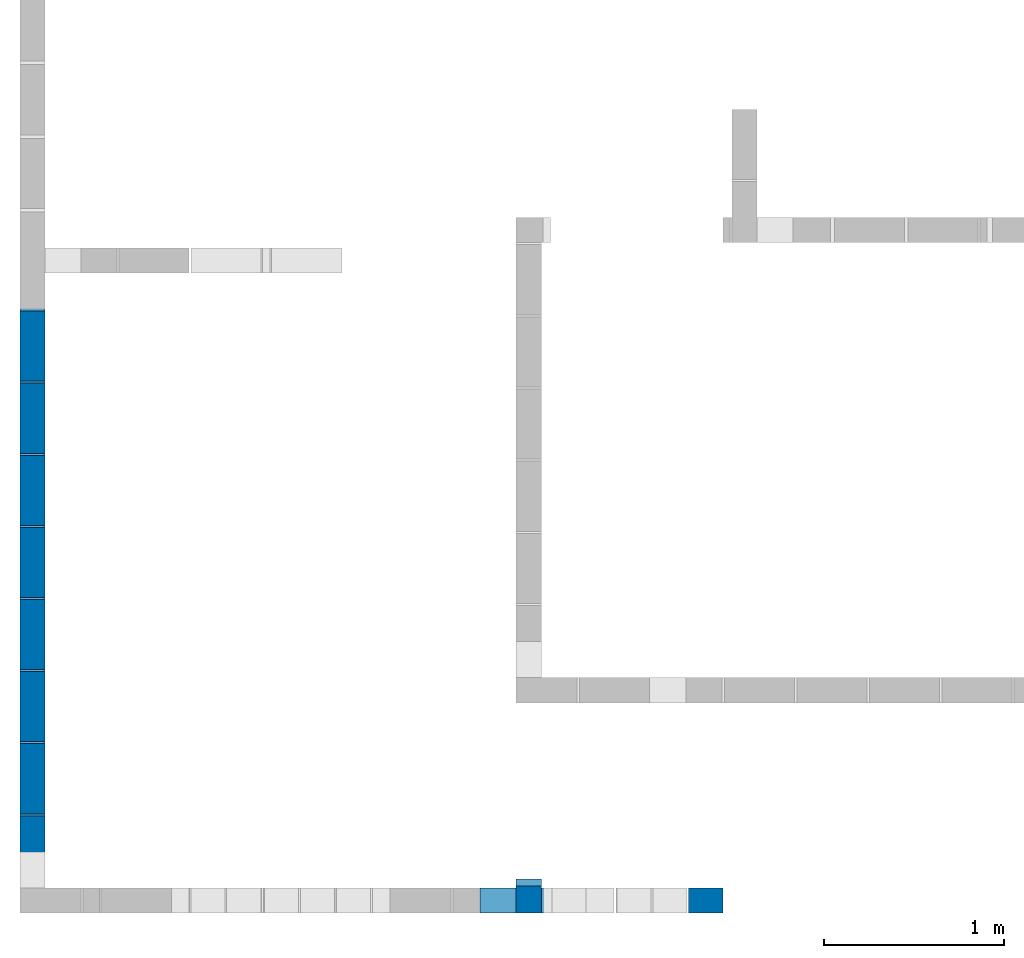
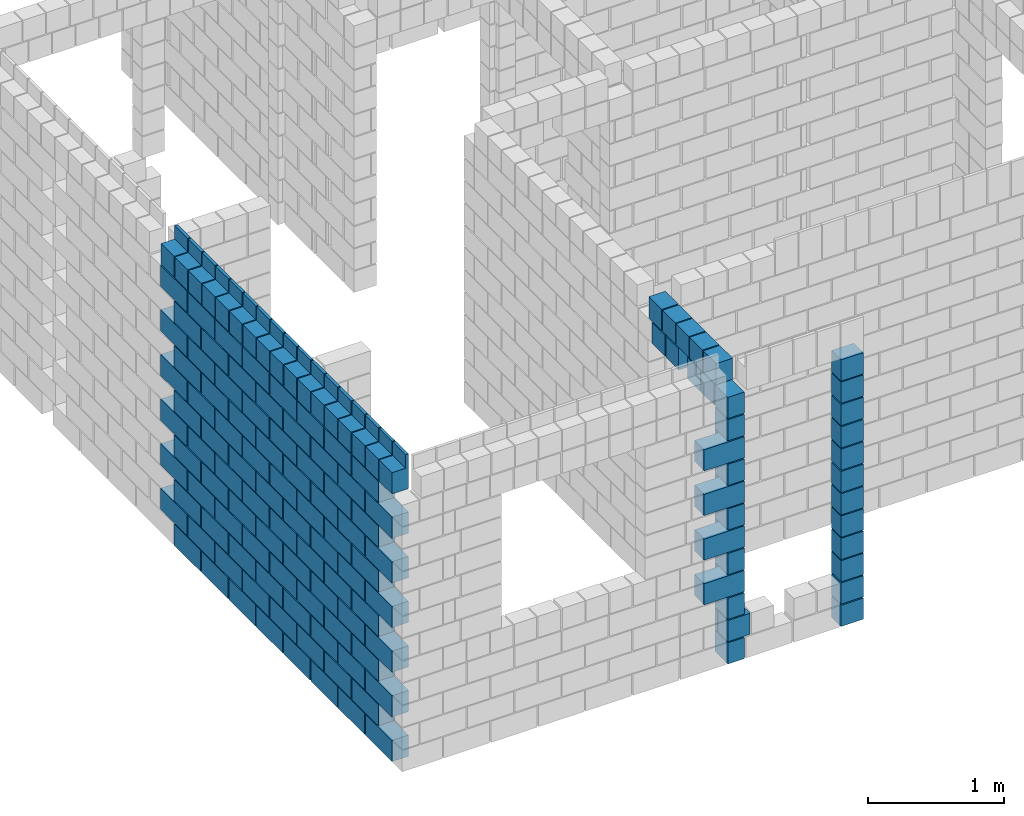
# One storey, part 2 of 12: 4 walls.
"""IFC4 building model written with IfcOpenShell, lengths in centimetres."""

from ifc_helpers import new_model, si_unit, derived_unit, frame, origin, origin_with_axes, origin_2d_with_axis, place, context, project, spatial, rectangle, extrude, element, save


model = new_model("IFC4")

# Units and contexts
model_context = context("Model", 3, precision=1e-05, world=origin_with_axes(), identifier="Body")
ifc_project = project(units=[si_unit("LENGTHUNIT", "METRE", prefix="CENTI"), si_unit("VOLUMEUNIT", "CUBIC_METRE"), si_unit("AREAUNIT", "SQUARE_METRE"), si_unit("POWERUNIT", "WATT"), si_unit("LUMINOUSFLUXUNIT", "LUMEN"), si_unit("ELECTRICCURRENTUNIT", "AMPERE"), si_unit("PRESSUREUNIT", "PASCAL", prefix="KILO"), si_unit("MASSUNIT", "GRAM", prefix="KILO"), si_unit("PLANEANGLEUNIT", "RADIAN"), derived_unit("VOLUMETRICFLOWRATEUNIT", [(si_unit("LENGTHUNIT", "METRE"), 3), (si_unit("TIMEUNIT", "SECOND"), -1)])], contexts=[model_context])

# Site, building, storey
site_placement = place(None, origin_with_axes())
site = spatial("IfcSite", under=ifc_project, at=site_placement)
building_placement = place(site_placement, origin())
building = spatial("IfcBuilding", under=site, at=building_placement)
storey_placement = place(building_placement, origin_with_axes())
storey = spatial("IfcBuildingStorey", under=building, at=storey_placement, Name="PISO", CompositionType="ELEMENT", Elevation=0.0)

# Walls
wall_1_placement = place(storey_placement, frame((276.5, 10.5, 239.0), z_axis=(0.0, 0.0, 1.0), x_axis=(1.0, 0.0, 0.0)))
element("IfcWall", 1, at=wall_1_placement, inside=storey, context=model_context, shape_type="SolidModel", body=[
    extrude(rectangle(XDim=19.0, YDim=14.0, at=origin_2d_with_axis()), frame((7.5, 0.0, -239.0), z_axis=(0.0, 0.0, 1.0), x_axis=(0.0, 1.0, 0.0)), (0.0, 0.0, 1.0), 19.0),
    extrude(rectangle(XDim=19.0, YDim=14.0, at=origin_2d_with_axis()), frame((10.0, -2.5, -219.0), z_axis=(0.0, 0.0, 1.0), x_axis=(1.0, 0.0, 0.0)), (0.0, 0.0, 1.0), 19.0),
    extrude(rectangle(XDim=19.0, YDim=14.0, at=origin_2d_with_axis()), frame((7.5, 0.0, -199.0), z_axis=(0.0, 0.0, 1.0), x_axis=(0.0, 1.0, 0.0)), (0.0, 0.0, 1.0), 19.0),
    extrude(rectangle(XDim=34.0, YDim=14.0, at=origin_2d_with_axis()), frame((-2.5, -2.5, -179.0), z_axis=(0.0, 0.0, 1.0), x_axis=(-1.0, 0.0, 0.0)), (0.0, 0.0, 1.0), 19.0),
    extrude(rectangle(XDim=19.0, YDim=14.0, at=origin_2d_with_axis()), frame((7.5, 0.0, -159.0), z_axis=(0.0, 0.0, 1.0), x_axis=(0.0, 1.0, 0.0)), (0.0, 0.0, 1.0), 19.0),
    extrude(rectangle(XDim=34.0, YDim=14.0, at=origin_2d_with_axis()), frame((-2.5, -2.5, -139.0), z_axis=(0.0, 0.0, 1.0), x_axis=(-1.0, 0.0, 0.0)), (0.0, 0.0, 1.0), 19.0),
    extrude(rectangle(XDim=19.0, YDim=14.0, at=origin_2d_with_axis()), frame((7.5, 0.0, -119.0), z_axis=(0.0, 0.0, 1.0), x_axis=(0.0, 1.0, 0.0)), (0.0, 0.0, 1.0), 19.0),
    extrude(rectangle(XDim=34.0, YDim=14.0, at=origin_2d_with_axis()), frame((-2.5, -2.5, -99.0), z_axis=(0.0, 0.0, 1.0), x_axis=(-1.0, 0.0, 0.0)), (0.0, 0.0, 1.0), 19.0),
    extrude(rectangle(XDim=19.0, YDim=14.0, at=origin_2d_with_axis()), frame((7.5, 0.0, -79.0), z_axis=(0.0, 0.0, 1.0), x_axis=(0.0, 1.0, 0.0)), (0.0, 0.0, 1.0), 19.0),
    extrude(rectangle(XDim=34.0, YDim=14.0, at=origin_2d_with_axis()), frame((-2.5, -2.5, -59.0), z_axis=(0.0, 0.0, 1.0), x_axis=(-1.0, 0.0, 0.0)), (0.0, 0.0, 1.0), 19.0),
    extrude(rectangle(XDim=19.0, YDim=14.0, at=origin_2d_with_axis()), frame((7.5, 0.0, -39.0), z_axis=(0.0, 0.0, 1.0), x_axis=(0.0, 1.0, 0.0)), (0.0, 0.0, 1.0), 19.0),
    extrude(rectangle(XDim=19.0, YDim=14.0, at=origin_2d_with_axis()), frame((7.5, 0.0, -19.0), z_axis=(0.0, 0.0, 1.0), x_axis=(0.0, 1.0, 0.0)), (0.0, 0.0, 1.0), 19.0),
])
wall_2_placement = place(storey_placement, frame((382.51, 8.0, 239.0), z_axis=(0.0, 0.0, 1.0), x_axis=(1.0, 0.0, 0.0)))
element("IfcWall", 2, at=wall_2_placement, inside=storey, context=model_context, shape_type="SolidModel", body=[
    extrude(rectangle(XDim=19.0, YDim=14.0, at=origin_2d_with_axis()), frame((0.0, 0.0, -239.0), z_axis=(0.0, 0.0, 1.0), x_axis=(-1.0, 0.0, 0.0)), (0.0, 0.0, 1.0), 19.0),
    extrude(rectangle(XDim=19.0, YDim=14.0, at=origin_2d_with_axis()), frame((0.0, 0.0, -219.0), z_axis=(0.0, 0.0, 1.0), x_axis=(-1.0, 0.0, 0.0)), (0.0, 0.0, 1.0), 19.0),
    extrude(rectangle(XDim=19.0, YDim=14.0, at=origin_2d_with_axis()), frame((0.0, 0.0, -199.0), z_axis=(0.0, 0.0, 1.0), x_axis=(-1.0, 0.0, 0.0)), (0.0, 0.0, 1.0), 19.0),
    extrude(rectangle(XDim=19.0, YDim=14.0, at=origin_2d_with_axis()), frame((0.0, 0.0, -179.0), z_axis=(0.0, 0.0, 1.0), x_axis=(-1.0, 0.0, 0.0)), (0.0, 0.0, 1.0), 19.0),
    extrude(rectangle(XDim=19.0, YDim=14.0, at=origin_2d_with_axis()), frame((0.0, 0.0, -159.0), z_axis=(0.0, 0.0, 1.0), x_axis=(-1.0, 0.0, 0.0)), (0.0, 0.0, 1.0), 19.0),
    extrude(rectangle(XDim=19.0, YDim=14.0, at=origin_2d_with_axis()), frame((0.0, 0.0, -139.0), z_axis=(0.0, 0.0, 1.0), x_axis=(-1.0, 0.0, 0.0)), (0.0, 0.0, 1.0), 19.0),
    extrude(rectangle(XDim=19.0, YDim=14.0, at=origin_2d_with_axis()), frame((0.0, 0.0, -119.0), z_axis=(0.0, 0.0, 1.0), x_axis=(-1.0, 0.0, 0.0)), (0.0, 0.0, 1.0), 19.0),
    extrude(rectangle(XDim=19.0, YDim=14.0, at=origin_2d_with_axis()), frame((0.0, 0.0, -99.0), z_axis=(0.0, 0.0, 1.0), x_axis=(-1.0, 0.0, 0.0)), (0.0, 0.0, 1.0), 19.0),
    extrude(rectangle(XDim=19.0, YDim=14.0, at=origin_2d_with_axis()), frame((0.0, 0.0, -79.0), z_axis=(0.0, 0.0, 1.0), x_axis=(-1.0, 0.0, 0.0)), (0.0, 0.0, 1.0), 19.0),
    extrude(rectangle(XDim=19.0, YDim=14.0, at=origin_2d_with_axis()), frame((0.0, 0.0, -59.0), z_axis=(0.0, 0.0, 1.0), x_axis=(-1.0, 0.0, 0.0)), (0.0, 0.0, 1.0), 19.0),
    extrude(rectangle(XDim=19.0, YDim=14.0, at=origin_2d_with_axis()), frame((0.0, 0.0, -39.0), z_axis=(0.0, 0.0, 1.0), x_axis=(-1.0, 0.0, 0.0)), (0.0, 0.0, 1.0), 19.0),
    extrude(rectangle(XDim=19.0, YDim=14.0, at=origin_2d_with_axis()), frame((0.0, 0.0, -19.0), z_axis=(0.0, 0.0, 1.0), x_axis=(-1.0, 0.0, 0.0)), (0.0, 0.0, 1.0), 19.0),
])
wall_3_placement = place(storey_placement, frame((8.0, 185.9488888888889, 271.0), z_axis=(0.0, 0.0, 1.0), x_axis=(1.0, 0.0, 0.0)))
element("IfcWall", 3, at=wall_3_placement, inside=storey, Name="PAR-PISO-11", context=model_context, shape_type="SolidModel", body=[
    extrude(rectangle(XDim=39.0, YDim=14.0, at=origin_2d_with_axis()), frame((0.0, -150.33666666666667, -271.0), z_axis=(0.0, 0.0, 1.0), x_axis=(0.0, 1.0, 0.0)), (0.0, 0.0, 1.0), 19.0),
    extrude(rectangle(XDim=39.0, YDim=14.0, at=origin_2d_with_axis()), frame((0.0, -110.22444444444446, -271.0), z_axis=(0.0, 0.0, 1.0), x_axis=(0.0, 1.0, 0.0)), (0.0, 0.0, 1.0), 19.0),
    extrude(rectangle(XDim=39.0, YDim=14.0, at=origin_2d_with_axis()), frame((0.0, -70.11222222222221, -271.0), z_axis=(0.0, 0.0, 1.0), x_axis=(0.0, 1.0, 0.0)), (0.0, 0.0, 1.0), 19.0),
    extrude(rectangle(XDim=39.0, YDim=14.0, at=origin_2d_with_axis()), frame((0.0, -30.0, -271.0), z_axis=(0.0, 0.0, 1.0), x_axis=(0.0, 1.0, 0.0)), (0.0, 0.0, 1.0), 19.0),
    extrude(rectangle(XDim=39.0, YDim=14.0, at=origin_2d_with_axis()), frame((0.0, 10.112222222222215, -271.0), z_axis=(0.0, 0.0, 1.0), x_axis=(0.0, 1.0, 0.0)), (0.0, 0.0, 1.0), 19.0),
    extrude(rectangle(XDim=39.0, YDim=14.0, at=origin_2d_with_axis()), frame((0.0, 50.22444444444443, -271.0), z_axis=(0.0, 0.0, 1.0), x_axis=(0.0, 1.0, 0.0)), (0.0, 0.0, 1.0), 19.0),
    extrude(rectangle(XDim=39.0, YDim=14.0, at=origin_2d_with_axis()), frame((0.0, 90.33666666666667, -271.0), z_axis=(0.0, 0.0, 1.0), x_axis=(0.0, 1.0, 0.0)), (0.0, 0.0, 1.0), 19.0),
    extrude(rectangle(XDim=39.0, YDim=14.0, at=origin_2d_with_axis()), frame((0.0, 130.4488888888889, -271.0), z_axis=(0.0, 0.0, 1.0), x_axis=(0.0, 1.0, 0.0)), (0.0, 0.0, 1.0), 19.0),
    extrude(rectangle(XDim=39.0, YDim=14.0, at=origin_2d_with_axis()), frame((0.0, -130.33666666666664, -251.0), z_axis=(0.0, 0.0, 1.0), x_axis=(0.0, 1.0, 0.0)), (0.0, 0.0, 1.0), 19.0),
    extrude(rectangle(XDim=39.0, YDim=14.0, at=origin_2d_with_axis()), frame((0.0, -90.22444444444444, -251.0), z_axis=(0.0, 0.0, 1.0), x_axis=(0.0, 1.0, 0.0)), (0.0, 0.0, 1.0), 19.0),
    extrude(rectangle(XDim=39.0, YDim=14.0, at=origin_2d_with_axis()), frame((0.0, -50.11222222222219, -251.0), z_axis=(0.0, 0.0, 1.0), x_axis=(0.0, 1.0, 0.0)), (0.0, 0.0, 1.0), 19.0),
    extrude(rectangle(XDim=39.0, YDim=14.0, at=origin_2d_with_axis()), frame((0.0, -10.0, -251.0), z_axis=(0.0, 0.0, 1.0), x_axis=(0.0, 1.0, 0.0)), (0.0, 0.0, 1.0), 19.0),
    extrude(rectangle(XDim=39.0, YDim=14.0, at=origin_2d_with_axis()), frame((0.0, 30.112222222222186, -251.0), z_axis=(0.0, 0.0, 1.0), x_axis=(0.0, 1.0, 0.0)), (0.0, 0.0, 1.0), 19.0),
    extrude(rectangle(XDim=39.0, YDim=14.0, at=origin_2d_with_axis()), frame((0.0, 70.2244444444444, -251.0), z_axis=(0.0, 0.0, 1.0), x_axis=(0.0, 1.0, 0.0)), (0.0, 0.0, 1.0), 19.0),
    extrude(rectangle(XDim=39.0, YDim=14.0, at=origin_2d_with_axis()), frame((0.0, 110.33666666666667, -251.0), z_axis=(0.0, 0.0, 1.0), x_axis=(0.0, 1.0, 0.0)), (0.0, 0.0, 1.0), 19.0),
    extrude(rectangle(XDim=39.0, YDim=14.0, at=origin_2d_with_axis()), frame((0.0, 150.4488888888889, -251.0), z_axis=(0.0, 0.0, 1.0), x_axis=(0.0, 1.0, 0.0)), (0.0, 0.0, 1.0), 19.0),
    extrude(rectangle(XDim=39.0, YDim=14.0, at=origin_2d_with_axis()), frame((0.0, -150.33666666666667, -231.0), z_axis=(0.0, 0.0, 1.0), x_axis=(0.0, 1.0, 0.0)), (0.0, 0.0, 1.0), 19.0),
    extrude(rectangle(XDim=39.0, YDim=14.0, at=origin_2d_with_axis()), frame((0.0, -110.22444444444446, -231.0), z_axis=(0.0, 0.0, 1.0), x_axis=(0.0, 1.0, 0.0)), (0.0, 0.0, 1.0), 19.0),
    extrude(rectangle(XDim=39.0, YDim=14.0, at=origin_2d_with_axis()), frame((0.0, -70.11222222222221, -231.0), z_axis=(0.0, 0.0, 1.0), x_axis=(0.0, 1.0, 0.0)), (0.0, 0.0, 1.0), 19.0),
    extrude(rectangle(XDim=39.0, YDim=14.0, at=origin_2d_with_axis()), frame((0.0, -30.0, -231.0), z_axis=(0.0, 0.0, 1.0), x_axis=(0.0, 1.0, 0.0)), (0.0, 0.0, 1.0), 19.0),
    extrude(rectangle(XDim=39.0, YDim=14.0, at=origin_2d_with_axis()), frame((0.0, 10.112222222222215, -231.0), z_axis=(0.0, 0.0, 1.0), x_axis=(0.0, 1.0, 0.0)), (0.0, 0.0, 1.0), 19.0),
    extrude(rectangle(XDim=39.0, YDim=14.0, at=origin_2d_with_axis()), frame((0.0, 50.22444444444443, -231.0), z_axis=(0.0, 0.0, 1.0), x_axis=(0.0, 1.0, 0.0)), (0.0, 0.0, 1.0), 19.0),
    extrude(rectangle(XDim=39.0, YDim=14.0, at=origin_2d_with_axis()), frame((0.0, 90.33666666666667, -231.0), z_axis=(0.0, 0.0, 1.0), x_axis=(0.0, 1.0, 0.0)), (0.0, 0.0, 1.0), 19.0),
    extrude(rectangle(XDim=39.0, YDim=14.0, at=origin_2d_with_axis()), frame((0.0, 130.4488888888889, -231.0), z_axis=(0.0, 0.0, 1.0), x_axis=(0.0, 1.0, 0.0)), (0.0, 0.0, 1.0), 19.0),
    extrude(rectangle(XDim=39.0, YDim=14.0, at=origin_2d_with_axis()), frame((0.0, -130.33666666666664, -211.0), z_axis=(0.0, 0.0, 1.0), x_axis=(0.0, 1.0, 0.0)), (0.0, 0.0, 1.0), 19.0),
    extrude(rectangle(XDim=39.0, YDim=14.0, at=origin_2d_with_axis()), frame((0.0, -90.22444444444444, -211.0), z_axis=(0.0, 0.0, 1.0), x_axis=(0.0, 1.0, 0.0)), (0.0, 0.0, 1.0), 19.0),
    extrude(rectangle(XDim=39.0, YDim=14.0, at=origin_2d_with_axis()), frame((0.0, -50.11222222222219, -211.0), z_axis=(0.0, 0.0, 1.0), x_axis=(0.0, 1.0, 0.0)), (0.0, 0.0, 1.0), 19.0),
    extrude(rectangle(XDim=39.0, YDim=14.0, at=origin_2d_with_axis()), frame((0.0, -10.0, -211.0), z_axis=(0.0, 0.0, 1.0), x_axis=(0.0, 1.0, 0.0)), (0.0, 0.0, 1.0), 19.0),
    extrude(rectangle(XDim=39.0, YDim=14.0, at=origin_2d_with_axis()), frame((0.0, 30.112222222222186, -211.0), z_axis=(0.0, 0.0, 1.0), x_axis=(0.0, 1.0, 0.0)), (0.0, 0.0, 1.0), 19.0),
    extrude(rectangle(XDim=39.0, YDim=14.0, at=origin_2d_with_axis()), frame((0.0, 70.2244444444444, -211.0), z_axis=(0.0, 0.0, 1.0), x_axis=(0.0, 1.0, 0.0)), (0.0, 0.0, 1.0), 19.0),
    extrude(rectangle(XDim=39.0, YDim=14.0, at=origin_2d_with_axis()), frame((0.0, 110.33666666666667, -211.0), z_axis=(0.0, 0.0, 1.0), x_axis=(0.0, 1.0, 0.0)), (0.0, 0.0, 1.0), 19.0),
    extrude(rectangle(XDim=39.0, YDim=14.0, at=origin_2d_with_axis()), frame((0.0, 150.4488888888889, -211.0), z_axis=(0.0, 0.0, 1.0), x_axis=(0.0, 1.0, 0.0)), (0.0, 0.0, 1.0), 19.0),
    extrude(rectangle(XDim=39.0, YDim=14.0, at=origin_2d_with_axis()), frame((0.0, -150.33666666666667, -191.0), z_axis=(0.0, 0.0, 1.0), x_axis=(0.0, 1.0, 0.0)), (0.0, 0.0, 1.0), 19.0),
    extrude(rectangle(XDim=39.0, YDim=14.0, at=origin_2d_with_axis()), frame((0.0, -110.22444444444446, -191.0), z_axis=(0.0, 0.0, 1.0), x_axis=(0.0, 1.0, 0.0)), (0.0, 0.0, 1.0), 19.0),
    extrude(rectangle(XDim=39.0, YDim=14.0, at=origin_2d_with_axis()), frame((0.0, -70.11222222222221, -191.0), z_axis=(0.0, 0.0, 1.0), x_axis=(0.0, 1.0, 0.0)), (0.0, 0.0, 1.0), 19.0),
    extrude(rectangle(XDim=39.0, YDim=14.0, at=origin_2d_with_axis()), frame((0.0, -30.0, -191.0), z_axis=(0.0, 0.0, 1.0), x_axis=(0.0, 1.0, 0.0)), (0.0, 0.0, 1.0), 19.0),
    extrude(rectangle(XDim=39.0, YDim=14.0, at=origin_2d_with_axis()), frame((0.0, 10.112222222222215, -191.0), z_axis=(0.0, 0.0, 1.0), x_axis=(0.0, 1.0, 0.0)), (0.0, 0.0, 1.0), 19.0),
    extrude(rectangle(XDim=39.0, YDim=14.0, at=origin_2d_with_axis()), frame((0.0, 50.22444444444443, -191.0), z_axis=(0.0, 0.0, 1.0), x_axis=(0.0, 1.0, 0.0)), (0.0, 0.0, 1.0), 19.0),
    extrude(rectangle(XDim=39.0, YDim=14.0, at=origin_2d_with_axis()), frame((0.0, 90.33666666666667, -191.0), z_axis=(0.0, 0.0, 1.0), x_axis=(0.0, 1.0, 0.0)), (0.0, 0.0, 1.0), 19.0),
    extrude(rectangle(XDim=39.0, YDim=14.0, at=origin_2d_with_axis()), frame((0.0, 130.4488888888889, -191.0), z_axis=(0.0, 0.0, 1.0), x_axis=(0.0, 1.0, 0.0)), (0.0, 0.0, 1.0), 19.0),
    extrude(rectangle(XDim=39.0, YDim=14.0, at=origin_2d_with_axis()), frame((0.0, -130.33666666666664, -171.0), z_axis=(0.0, 0.0, 1.0), x_axis=(0.0, 1.0, 0.0)), (0.0, 0.0, 1.0), 19.0),
    extrude(rectangle(XDim=39.0, YDim=14.0, at=origin_2d_with_axis()), frame((0.0, -90.22444444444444, -171.0), z_axis=(0.0, 0.0, 1.0), x_axis=(0.0, 1.0, 0.0)), (0.0, 0.0, 1.0), 19.0),
    extrude(rectangle(XDim=39.0, YDim=14.0, at=origin_2d_with_axis()), frame((0.0, -50.11222222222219, -171.0), z_axis=(0.0, 0.0, 1.0), x_axis=(0.0, 1.0, 0.0)), (0.0, 0.0, 1.0), 19.0),
    extrude(rectangle(XDim=39.0, YDim=14.0, at=origin_2d_with_axis()), frame((0.0, -10.0, -171.0), z_axis=(0.0, 0.0, 1.0), x_axis=(0.0, 1.0, 0.0)), (0.0, 0.0, 1.0), 19.0),
    extrude(rectangle(XDim=39.0, YDim=14.0, at=origin_2d_with_axis()), frame((0.0, 30.112222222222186, -171.0), z_axis=(0.0, 0.0, 1.0), x_axis=(0.0, 1.0, 0.0)), (0.0, 0.0, 1.0), 19.0),
    extrude(rectangle(XDim=39.0, YDim=14.0, at=origin_2d_with_axis()), frame((0.0, 70.2244444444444, -171.0), z_axis=(0.0, 0.0, 1.0), x_axis=(0.0, 1.0, 0.0)), (0.0, 0.0, 1.0), 19.0),
    extrude(rectangle(XDim=39.0, YDim=14.0, at=origin_2d_with_axis()), frame((0.0, 110.33666666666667, -171.0), z_axis=(0.0, 0.0, 1.0), x_axis=(0.0, 1.0, 0.0)), (0.0, 0.0, 1.0), 19.0),
    extrude(rectangle(XDim=39.0, YDim=14.0, at=origin_2d_with_axis()), frame((0.0, 150.4488888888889, -171.0), z_axis=(0.0, 0.0, 1.0), x_axis=(0.0, 1.0, 0.0)), (0.0, 0.0, 1.0), 19.0),
    extrude(rectangle(XDim=39.0, YDim=14.0, at=origin_2d_with_axis()), frame((0.0, -150.33666666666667, -151.0), z_axis=(0.0, 0.0, 1.0), x_axis=(0.0, 1.0, 0.0)), (0.0, 0.0, 1.0), 19.0),
    extrude(rectangle(XDim=39.0, YDim=14.0, at=origin_2d_with_axis()), frame((0.0, -110.22444444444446, -151.0), z_axis=(0.0, 0.0, 1.0), x_axis=(0.0, 1.0, 0.0)), (0.0, 0.0, 1.0), 19.0),
    extrude(rectangle(XDim=39.0, YDim=14.0, at=origin_2d_with_axis()), frame((0.0, -70.11222222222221, -151.0), z_axis=(0.0, 0.0, 1.0), x_axis=(0.0, 1.0, 0.0)), (0.0, 0.0, 1.0), 19.0),
    extrude(rectangle(XDim=39.0, YDim=14.0, at=origin_2d_with_axis()), frame((0.0, -30.0, -151.0), z_axis=(0.0, 0.0, 1.0), x_axis=(0.0, 1.0, 0.0)), (0.0, 0.0, 1.0), 19.0),
    extrude(rectangle(XDim=39.0, YDim=14.0, at=origin_2d_with_axis()), frame((0.0, 10.112222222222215, -151.0), z_axis=(0.0, 0.0, 1.0), x_axis=(0.0, 1.0, 0.0)), (0.0, 0.0, 1.0), 19.0),
    extrude(rectangle(XDim=39.0, YDim=14.0, at=origin_2d_with_axis()), frame((0.0, 50.22444444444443, -151.0), z_axis=(0.0, 0.0, 1.0), x_axis=(0.0, 1.0, 0.0)), (0.0, 0.0, 1.0), 19.0),
    extrude(rectangle(XDim=39.0, YDim=14.0, at=origin_2d_with_axis()), frame((0.0, 90.33666666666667, -151.0), z_axis=(0.0, 0.0, 1.0), x_axis=(0.0, 1.0, 0.0)), (0.0, 0.0, 1.0), 19.0),
    extrude(rectangle(XDim=39.0, YDim=14.0, at=origin_2d_with_axis()), frame((0.0, 130.4488888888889, -151.0), z_axis=(0.0, 0.0, 1.0), x_axis=(0.0, 1.0, 0.0)), (0.0, 0.0, 1.0), 19.0),
    extrude(rectangle(XDim=39.0, YDim=14.0, at=origin_2d_with_axis()), frame((0.0, -130.33666666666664, -131.0), z_axis=(0.0, 0.0, 1.0), x_axis=(0.0, 1.0, 0.0)), (0.0, 0.0, 1.0), 19.0),
    extrude(rectangle(XDim=39.0, YDim=14.0, at=origin_2d_with_axis()), frame((0.0, -90.22444444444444, -131.0), z_axis=(0.0, 0.0, 1.0), x_axis=(0.0, 1.0, 0.0)), (0.0, 0.0, 1.0), 19.0),
    extrude(rectangle(XDim=39.0, YDim=14.0, at=origin_2d_with_axis()), frame((0.0, -50.11222222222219, -131.0), z_axis=(0.0, 0.0, 1.0), x_axis=(0.0, 1.0, 0.0)), (0.0, 0.0, 1.0), 19.0),
    extrude(rectangle(XDim=39.0, YDim=14.0, at=origin_2d_with_axis()), frame((0.0, -10.0, -131.0), z_axis=(0.0, 0.0, 1.0), x_axis=(0.0, 1.0, 0.0)), (0.0, 0.0, 1.0), 19.0),
    extrude(rectangle(XDim=39.0, YDim=14.0, at=origin_2d_with_axis()), frame((0.0, 30.112222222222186, -131.0), z_axis=(0.0, 0.0, 1.0), x_axis=(0.0, 1.0, 0.0)), (0.0, 0.0, 1.0), 19.0),
    extrude(rectangle(XDim=39.0, YDim=14.0, at=origin_2d_with_axis()), frame((0.0, 70.2244444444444, -131.0), z_axis=(0.0, 0.0, 1.0), x_axis=(0.0, 1.0, 0.0)), (0.0, 0.0, 1.0), 19.0),
    extrude(rectangle(XDim=39.0, YDim=14.0, at=origin_2d_with_axis()), frame((0.0, 110.33666666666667, -131.0), z_axis=(0.0, 0.0, 1.0), x_axis=(0.0, 1.0, 0.0)), (0.0, 0.0, 1.0), 19.0),
    extrude(rectangle(XDim=39.0, YDim=14.0, at=origin_2d_with_axis()), frame((0.0, 150.4488888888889, -131.0), z_axis=(0.0, 0.0, 1.0), x_axis=(0.0, 1.0, 0.0)), (0.0, 0.0, 1.0), 19.0),
    extrude(rectangle(XDim=39.0, YDim=14.0, at=origin_2d_with_axis()), frame((0.0, -150.33666666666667, -111.0), z_axis=(0.0, 0.0, 1.0), x_axis=(0.0, 1.0, 0.0)), (0.0, 0.0, 1.0), 19.0),
    extrude(rectangle(XDim=39.0, YDim=14.0, at=origin_2d_with_axis()), frame((0.0, -110.22444444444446, -111.0), z_axis=(0.0, 0.0, 1.0), x_axis=(0.0, 1.0, 0.0)), (0.0, 0.0, 1.0), 19.0),
    extrude(rectangle(XDim=39.0, YDim=14.0, at=origin_2d_with_axis()), frame((0.0, -70.11222222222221, -111.0), z_axis=(0.0, 0.0, 1.0), x_axis=(0.0, 1.0, 0.0)), (0.0, 0.0, 1.0), 19.0),
    extrude(rectangle(XDim=39.0, YDim=14.0, at=origin_2d_with_axis()), frame((0.0, -30.0, -111.0), z_axis=(0.0, 0.0, 1.0), x_axis=(0.0, 1.0, 0.0)), (0.0, 0.0, 1.0), 19.0),
    extrude(rectangle(XDim=39.0, YDim=14.0, at=origin_2d_with_axis()), frame((0.0, 10.112222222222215, -111.0), z_axis=(0.0, 0.0, 1.0), x_axis=(0.0, 1.0, 0.0)), (0.0, 0.0, 1.0), 19.0),
    extrude(rectangle(XDim=39.0, YDim=14.0, at=origin_2d_with_axis()), frame((0.0, 50.22444444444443, -111.0), z_axis=(0.0, 0.0, 1.0), x_axis=(0.0, 1.0, 0.0)), (0.0, 0.0, 1.0), 19.0),
    extrude(rectangle(XDim=39.0, YDim=14.0, at=origin_2d_with_axis()), frame((0.0, 90.33666666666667, -111.0), z_axis=(0.0, 0.0, 1.0), x_axis=(0.0, 1.0, 0.0)), (0.0, 0.0, 1.0), 19.0),
    extrude(rectangle(XDim=39.0, YDim=14.0, at=origin_2d_with_axis()), frame((0.0, 130.4488888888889, -111.0), z_axis=(0.0, 0.0, 1.0), x_axis=(0.0, 1.0, 0.0)), (0.0, 0.0, 1.0), 19.0),
    extrude(rectangle(XDim=39.0, YDim=14.0, at=origin_2d_with_axis()), frame((0.0, -130.33666666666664, -91.0), z_axis=(0.0, 0.0, 1.0), x_axis=(0.0, 1.0, 0.0)), (0.0, 0.0, 1.0), 19.0),
    extrude(rectangle(XDim=39.0, YDim=14.0, at=origin_2d_with_axis()), frame((0.0, -90.22444444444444, -91.0), z_axis=(0.0, 0.0, 1.0), x_axis=(0.0, 1.0, 0.0)), (0.0, 0.0, 1.0), 19.0),
    extrude(rectangle(XDim=39.0, YDim=14.0, at=origin_2d_with_axis()), frame((0.0, -50.11222222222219, -91.0), z_axis=(0.0, 0.0, 1.0), x_axis=(0.0, 1.0, 0.0)), (0.0, 0.0, 1.0), 19.0),
    extrude(rectangle(XDim=39.0, YDim=14.0, at=origin_2d_with_axis()), frame((0.0, -10.0, -91.0), z_axis=(0.0, 0.0, 1.0), x_axis=(0.0, 1.0, 0.0)), (0.0, 0.0, 1.0), 19.0),
    extrude(rectangle(XDim=39.0, YDim=14.0, at=origin_2d_with_axis()), frame((0.0, 30.112222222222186, -91.0), z_axis=(0.0, 0.0, 1.0), x_axis=(0.0, 1.0, 0.0)), (0.0, 0.0, 1.0), 19.0),
    extrude(rectangle(XDim=39.0, YDim=14.0, at=origin_2d_with_axis()), frame((0.0, 70.2244444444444, -91.0), z_axis=(0.0, 0.0, 1.0), x_axis=(0.0, 1.0, 0.0)), (0.0, 0.0, 1.0), 19.0),
    extrude(rectangle(XDim=39.0, YDim=14.0, at=origin_2d_with_axis()), frame((0.0, 110.33666666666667, -91.0), z_axis=(0.0, 0.0, 1.0), x_axis=(0.0, 1.0, 0.0)), (0.0, 0.0, 1.0), 19.0),
    extrude(rectangle(XDim=39.0, YDim=14.0, at=origin_2d_with_axis()), frame((0.0, 150.4488888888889, -91.0), z_axis=(0.0, 0.0, 1.0), x_axis=(0.0, 1.0, 0.0)), (0.0, 0.0, 1.0), 19.0),
    extrude(rectangle(XDim=39.0, YDim=14.0, at=origin_2d_with_axis()), frame((0.0, -150.33666666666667, -71.0), z_axis=(0.0, 0.0, 1.0), x_axis=(0.0, 1.0, 0.0)), (0.0, 0.0, 1.0), 19.0),
    extrude(rectangle(XDim=39.0, YDim=14.0, at=origin_2d_with_axis()), frame((0.0, -110.22444444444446, -71.0), z_axis=(0.0, 0.0, 1.0), x_axis=(0.0, 1.0, 0.0)), (0.0, 0.0, 1.0), 19.0),
    extrude(rectangle(XDim=39.0, YDim=14.0, at=origin_2d_with_axis()), frame((0.0, -70.11222222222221, -71.0), z_axis=(0.0, 0.0, 1.0), x_axis=(0.0, 1.0, 0.0)), (0.0, 0.0, 1.0), 19.0),
    extrude(rectangle(XDim=39.0, YDim=14.0, at=origin_2d_with_axis()), frame((0.0, -30.0, -71.0), z_axis=(0.0, 0.0, 1.0), x_axis=(0.0, 1.0, 0.0)), (0.0, 0.0, 1.0), 19.0),
    extrude(rectangle(XDim=39.0, YDim=14.0, at=origin_2d_with_axis()), frame((0.0, 10.112222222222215, -71.0), z_axis=(0.0, 0.0, 1.0), x_axis=(0.0, 1.0, 0.0)), (0.0, 0.0, 1.0), 19.0),
    extrude(rectangle(XDim=39.0, YDim=14.0, at=origin_2d_with_axis()), frame((0.0, 50.22444444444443, -71.0), z_axis=(0.0, 0.0, 1.0), x_axis=(0.0, 1.0, 0.0)), (0.0, 0.0, 1.0), 19.0),
    extrude(rectangle(XDim=39.0, YDim=14.0, at=origin_2d_with_axis()), frame((0.0, 90.33666666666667, -71.0), z_axis=(0.0, 0.0, 1.0), x_axis=(0.0, 1.0, 0.0)), (0.0, 0.0, 1.0), 19.0),
    extrude(rectangle(XDim=39.0, YDim=14.0, at=origin_2d_with_axis()), frame((0.0, 130.4488888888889, -71.0), z_axis=(0.0, 0.0, 1.0), x_axis=(0.0, 1.0, 0.0)), (0.0, 0.0, 1.0), 19.0),
    extrude(rectangle(XDim=39.0, YDim=14.0, at=origin_2d_with_axis()), frame((0.0, -130.33666666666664, -51.0), z_axis=(0.0, 0.0, 1.0), x_axis=(0.0, 1.0, 0.0)), (0.0, 0.0, 1.0), 19.0),
    extrude(rectangle(XDim=39.0, YDim=14.0, at=origin_2d_with_axis()), frame((0.0, -90.22444444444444, -51.0), z_axis=(0.0, 0.0, 1.0), x_axis=(0.0, 1.0, 0.0)), (0.0, 0.0, 1.0), 19.0),
    extrude(rectangle(XDim=39.0, YDim=14.0, at=origin_2d_with_axis()), frame((0.0, -50.11222222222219, -51.0), z_axis=(0.0, 0.0, 1.0), x_axis=(0.0, 1.0, 0.0)), (0.0, 0.0, 1.0), 19.0),
    extrude(rectangle(XDim=39.0, YDim=14.0, at=origin_2d_with_axis()), frame((0.0, -10.0, -51.0), z_axis=(0.0, 0.0, 1.0), x_axis=(0.0, 1.0, 0.0)), (0.0, 0.0, 1.0), 19.0),
    extrude(rectangle(XDim=39.0, YDim=14.0, at=origin_2d_with_axis()), frame((0.0, 30.112222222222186, -51.0), z_axis=(0.0, 0.0, 1.0), x_axis=(0.0, 1.0, 0.0)), (0.0, 0.0, 1.0), 19.0),
    extrude(rectangle(XDim=39.0, YDim=14.0, at=origin_2d_with_axis()), frame((0.0, 70.2244444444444, -51.0), z_axis=(0.0, 0.0, 1.0), x_axis=(0.0, 1.0, 0.0)), (0.0, 0.0, 1.0), 19.0),
    extrude(rectangle(XDim=39.0, YDim=14.0, at=origin_2d_with_axis()), frame((0.0, 110.33666666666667, -51.0), z_axis=(0.0, 0.0, 1.0), x_axis=(0.0, 1.0, 0.0)), (0.0, 0.0, 1.0), 19.0),
    extrude(rectangle(XDim=39.0, YDim=14.0, at=origin_2d_with_axis()), frame((0.0, 150.4488888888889, -51.0), z_axis=(0.0, 0.0, 1.0), x_axis=(0.0, 1.0, 0.0)), (0.0, 0.0, 1.0), 19.0),
    extrude(rectangle(XDim=19.0, YDim=2.5, at=origin_2d_with_axis()), frame((5.75, -160.4488888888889, -12.0), z_axis=(0.0, 0.0, 1.0), x_axis=(0.0, 1.0, 0.0)), (0.0, 0.0, 1.0), 12.0),
    extrude(rectangle(XDim=19.0, YDim=14.0, at=origin_2d_with_axis()), frame((0.0, -160.4488888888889, -31.0), z_axis=(0.0, 0.0, 1.0), x_axis=(0.0, 1.0, 0.0)), (0.0, 0.0, 1.0), 19.0),
    extrude(rectangle(XDim=19.0, YDim=2.5, at=origin_2d_with_axis()), frame((5.75, -140.4488888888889, -12.0), z_axis=(0.0, 0.0, 1.0), x_axis=(0.0, 1.0, 0.0)), (0.0, 0.0, 1.0), 12.0),
    extrude(rectangle(XDim=19.0, YDim=14.0, at=origin_2d_with_axis()), frame((0.0, -140.4488888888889, -31.0), z_axis=(0.0, 0.0, 1.0), x_axis=(0.0, 1.0, 0.0)), (0.0, 0.0, 1.0), 19.0),
    extrude(rectangle(XDim=19.0, YDim=2.5, at=origin_2d_with_axis()), frame((5.75, -120.44888888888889, -12.0), z_axis=(0.0, 0.0, 1.0), x_axis=(0.0, 1.0, 0.0)), (0.0, 0.0, 1.0), 12.0),
    extrude(rectangle(XDim=19.0, YDim=14.0, at=origin_2d_with_axis()), frame((0.0, -120.44888888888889, -31.0), z_axis=(0.0, 0.0, 1.0), x_axis=(0.0, 1.0, 0.0)), (0.0, 0.0, 1.0), 19.0),
    extrude(rectangle(XDim=19.0, YDim=2.5, at=origin_2d_with_axis()), frame((5.75, -100.44888888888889, -12.0), z_axis=(0.0, 0.0, 1.0), x_axis=(0.0, 1.0, 0.0)), (0.0, 0.0, 1.0), 12.0),
    extrude(rectangle(XDim=19.0, YDim=14.0, at=origin_2d_with_axis()), frame((0.0, -100.44888888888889, -31.0), z_axis=(0.0, 0.0, 1.0), x_axis=(0.0, 1.0, 0.0)), (0.0, 0.0, 1.0), 19.0),
    extrude(rectangle(XDim=19.0, YDim=2.5, at=origin_2d_with_axis()), frame((5.75, -80.44888888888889, -12.0), z_axis=(0.0, 0.0, 1.0), x_axis=(0.0, 1.0, 0.0)), (0.0, 0.0, 1.0), 12.0),
    extrude(rectangle(XDim=19.0, YDim=14.0, at=origin_2d_with_axis()), frame((0.0, -80.44888888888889, -31.0), z_axis=(0.0, 0.0, 1.0), x_axis=(0.0, 1.0, 0.0)), (0.0, 0.0, 1.0), 19.0),
    extrude(rectangle(XDim=19.0, YDim=2.5, at=origin_2d_with_axis()), frame((5.75, -60.44888888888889, -12.0), z_axis=(0.0, 0.0, 1.0), x_axis=(0.0, 1.0, 0.0)), (0.0, 0.0, 1.0), 12.0),
    extrude(rectangle(XDim=19.0, YDim=14.0, at=origin_2d_with_axis()), frame((0.0, -60.44888888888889, -31.0), z_axis=(0.0, 0.0, 1.0), x_axis=(0.0, 1.0, 0.0)), (0.0, 0.0, 1.0), 19.0),
    extrude(rectangle(XDim=19.0, YDim=2.5, at=origin_2d_with_axis()), frame((5.75, -40.44888888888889, -12.0), z_axis=(0.0, 0.0, 1.0), x_axis=(0.0, 1.0, 0.0)), (0.0, 0.0, 1.0), 12.0),
    extrude(rectangle(XDim=19.0, YDim=14.0, at=origin_2d_with_axis()), frame((0.0, -40.44888888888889, -31.0), z_axis=(0.0, 0.0, 1.0), x_axis=(0.0, 1.0, 0.0)), (0.0, 0.0, 1.0), 19.0),
    extrude(rectangle(XDim=19.0, YDim=2.5, at=origin_2d_with_axis()), frame((5.75, -20.448888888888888, -12.0), z_axis=(0.0, 0.0, 1.0), x_axis=(0.0, 1.0, 0.0)), (0.0, 0.0, 1.0), 12.0),
    extrude(rectangle(XDim=19.0, YDim=14.0, at=origin_2d_with_axis()), frame((0.0, -20.448888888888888, -31.0), z_axis=(0.0, 0.0, 1.0), x_axis=(0.0, 1.0, 0.0)), (0.0, 0.0, 1.0), 19.0),
    extrude(rectangle(XDim=19.0, YDim=2.5, at=origin_2d_with_axis()), frame((5.75, -0.448888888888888, -12.0), z_axis=(0.0, 0.0, 1.0), x_axis=(0.0, 1.0, 0.0)), (0.0, 0.0, 1.0), 12.0),
    extrude(rectangle(XDim=19.0, YDim=14.0, at=origin_2d_with_axis()), frame((0.0, -0.448888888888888, -31.0), z_axis=(0.0, 0.0, 1.0), x_axis=(0.0, 1.0, 0.0)), (0.0, 0.0, 1.0), 19.0),
    extrude(rectangle(XDim=19.0, YDim=2.5, at=origin_2d_with_axis()), frame((5.75, 19.551111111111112, -12.0), z_axis=(0.0, 0.0, 1.0), x_axis=(0.0, 1.0, 0.0)), (0.0, 0.0, 1.0), 12.0),
    extrude(rectangle(XDim=19.0, YDim=14.0, at=origin_2d_with_axis()), frame((0.0, 19.551111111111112, -31.0), z_axis=(0.0, 0.0, 1.0), x_axis=(0.0, 1.0, 0.0)), (0.0, 0.0, 1.0), 19.0),
    extrude(rectangle(XDim=19.0, YDim=2.5, at=origin_2d_with_axis()), frame((5.75, 39.55111111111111, -12.0), z_axis=(0.0, 0.0, 1.0), x_axis=(0.0, 1.0, 0.0)), (0.0, 0.0, 1.0), 12.0),
    extrude(rectangle(XDim=19.0, YDim=14.0, at=origin_2d_with_axis()), frame((0.0, 39.55111111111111, -31.0), z_axis=(0.0, 0.0, 1.0), x_axis=(0.0, 1.0, 0.0)), (0.0, 0.0, 1.0), 19.0),
    extrude(rectangle(XDim=19.0, YDim=2.5, at=origin_2d_with_axis()), frame((5.75, 59.55111111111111, -12.0), z_axis=(0.0, 0.0, 1.0), x_axis=(0.0, 1.0, 0.0)), (0.0, 0.0, 1.0), 12.0),
    extrude(rectangle(XDim=19.0, YDim=14.0, at=origin_2d_with_axis()), frame((0.0, 59.55111111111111, -31.0), z_axis=(0.0, 0.0, 1.0), x_axis=(0.0, 1.0, 0.0)), (0.0, 0.0, 1.0), 19.0),
    extrude(rectangle(XDim=19.0, YDim=2.5, at=origin_2d_with_axis()), frame((5.75, 79.55111111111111, -12.0), z_axis=(0.0, 0.0, 1.0), x_axis=(0.0, 1.0, 0.0)), (0.0, 0.0, 1.0), 12.0),
    extrude(rectangle(XDim=19.0, YDim=14.0, at=origin_2d_with_axis()), frame((0.0, 79.55111111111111, -31.0), z_axis=(0.0, 0.0, 1.0), x_axis=(0.0, 1.0, 0.0)), (0.0, 0.0, 1.0), 19.0),
    extrude(rectangle(XDim=19.0, YDim=2.5, at=origin_2d_with_axis()), frame((5.75, 99.55111111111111, -12.0), z_axis=(0.0, 0.0, 1.0), x_axis=(0.0, 1.0, 0.0)), (0.0, 0.0, 1.0), 12.0),
    extrude(rectangle(XDim=19.0, YDim=14.0, at=origin_2d_with_axis()), frame((0.0, 99.55111111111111, -31.0), z_axis=(0.0, 0.0, 1.0), x_axis=(0.0, 1.0, 0.0)), (0.0, 0.0, 1.0), 19.0),
    extrude(rectangle(XDim=19.0, YDim=2.5, at=origin_2d_with_axis()), frame((5.75, 119.55111111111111, -12.0), z_axis=(0.0, 0.0, 1.0), x_axis=(0.0, 1.0, 0.0)), (0.0, 0.0, 1.0), 12.0),
    extrude(rectangle(XDim=19.0, YDim=14.0, at=origin_2d_with_axis()), frame((0.0, 119.55111111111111, -31.0), z_axis=(0.0, 0.0, 1.0), x_axis=(0.0, 1.0, 0.0)), (0.0, 0.0, 1.0), 19.0),
    extrude(rectangle(XDim=19.0, YDim=2.5, at=origin_2d_with_axis()), frame((5.75, 139.5511111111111, -12.0), z_axis=(0.0, 0.0, 1.0), x_axis=(0.0, 1.0, 0.0)), (0.0, 0.0, 1.0), 12.0),
    extrude(rectangle(XDim=19.0, YDim=14.0, at=origin_2d_with_axis()), frame((0.0, 139.5511111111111, -31.0), z_axis=(0.0, 0.0, 1.0), x_axis=(0.0, 1.0, 0.0)), (0.0, 0.0, 1.0), 19.0),
    extrude(rectangle(XDim=19.0, YDim=2.5, at=origin_2d_with_axis()), frame((5.75, 159.5511111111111, -12.0), z_axis=(0.0, 0.0, 1.0), x_axis=(0.0, 1.0, 0.0)), (0.0, 0.0, 1.0), 12.0),
    extrude(rectangle(XDim=19.0, YDim=14.0, at=origin_2d_with_axis()), frame((0.0, 159.5511111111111, -31.0), z_axis=(0.0, 0.0, 1.0), x_axis=(0.0, 1.0, 0.0)), (0.0, 0.0, 1.0), 19.0),
])
wall_4_placement = place(storey_placement, frame((284.0, 66.5, 259.0), z_axis=(0.0, 0.0, 1.0), x_axis=(1.0, 0.0, 0.0)))
element("IfcWall", 4, at=wall_4_placement, inside=storey, Name="PAR-PISO-12", context=model_context, shape_type="SolidModel", body=[
    extrude(rectangle(XDim=4.0, YDim=14.0, at=origin_2d_with_axis()), frame((0.0, -48.5, -239.0), z_axis=(0.0, 0.0, 1.0), x_axis=(0.0, -1.0, 0.0)), (0.0, 0.0, 1.0), 19.0),
    extrude(rectangle(XDim=4.0, YDim=14.0, at=origin_2d_with_axis()), frame((0.0, -48.5, -199.0), z_axis=(0.0, 0.0, 1.0), x_axis=(0.0, -1.0, 0.0)), (0.0, 0.0, 1.0), 19.0),
    extrude(rectangle(XDim=4.0, YDim=14.0, at=origin_2d_with_axis()), frame((0.0, -48.5, -159.0), z_axis=(0.0, 0.0, 1.0), x_axis=(0.0, -1.0, 0.0)), (0.0, 0.0, 1.0), 19.0),
    extrude(rectangle(XDim=4.0, YDim=14.0, at=origin_2d_with_axis()), frame((0.0, -48.5, -119.0), z_axis=(0.0, 0.0, 1.0), x_axis=(0.0, -1.0, 0.0)), (0.0, 0.0, 1.0), 19.0),
    extrude(rectangle(XDim=4.0, YDim=14.0, at=origin_2d_with_axis()), frame((0.0, -48.5, -79.0), z_axis=(0.0, 0.0, 1.0), x_axis=(0.0, -1.0, 0.0)), (0.0, 0.0, 1.0), 19.0),
    extrude(rectangle(XDim=19.0, YDim=14.0, at=origin_2d_with_axis()), frame((0.0, 36.0, -39.0), z_axis=(0.0, 0.0, 1.0), x_axis=(0.0, -1.0, 0.0)), (0.0, 0.0, 1.0), 19.0),
    extrude(rectangle(XDim=19.0, YDim=14.0, at=origin_2d_with_axis()), frame((0.0, 16.0, -39.0), z_axis=(0.0, 0.0, 1.0), x_axis=(0.0, -1.0, 0.0)), (0.0, 0.0, 1.0), 19.0),
    extrude(rectangle(XDim=19.0, YDim=14.0, at=origin_2d_with_axis()), frame((0.0, -16.0, -39.0), z_axis=(0.0, 0.0, 1.0), x_axis=(0.0, -1.0, 0.0)), (0.0, 0.0, 1.0), 19.0),
    extrude(rectangle(XDim=19.0, YDim=14.0, at=origin_2d_with_axis()), frame((0.0, -36.0, -39.0), z_axis=(0.0, 0.0, 1.0), x_axis=(0.0, -1.0, 0.0)), (0.0, 0.0, 1.0), 19.0),
    extrude(rectangle(XDim=19.0, YDim=14.0, at=origin_2d_with_axis()), frame((0.0, 41.0, -19.0), z_axis=(0.0, 0.0, 1.0), x_axis=(0.0, -1.0, 0.0)), (0.0, 0.0, 1.0), 19.0),
    extrude(rectangle(XDim=19.0, YDim=14.0, at=origin_2d_with_axis()), frame((0.0, 21.0, -19.0), z_axis=(0.0, 0.0, 1.0), x_axis=(0.0, -1.0, 0.0)), (0.0, 0.0, 1.0), 19.0),
    extrude(rectangle(XDim=19.0, YDim=14.0, at=origin_2d_with_axis()), frame((0.0, 1.0, -19.0), z_axis=(0.0, 0.0, 1.0), x_axis=(0.0, -1.0, 0.0)), (0.0, 0.0, 1.0), 19.0),
    extrude(rectangle(XDim=19.0, YDim=14.0, at=origin_2d_with_axis()), frame((0.0, -19.0, -19.0), z_axis=(0.0, 0.0, 1.0), x_axis=(0.0, -1.0, 0.0)), (0.0, 0.0, 1.0), 19.0),
    extrude(rectangle(XDim=19.0, YDim=14.0, at=origin_2d_with_axis()), frame((0.0, -39.0, -19.0), z_axis=(0.0, 0.0, 1.0), x_axis=(0.0, -1.0, 0.0)), (0.0, 0.0, 1.0), 19.0),
])

save(model, "model.ifc")
